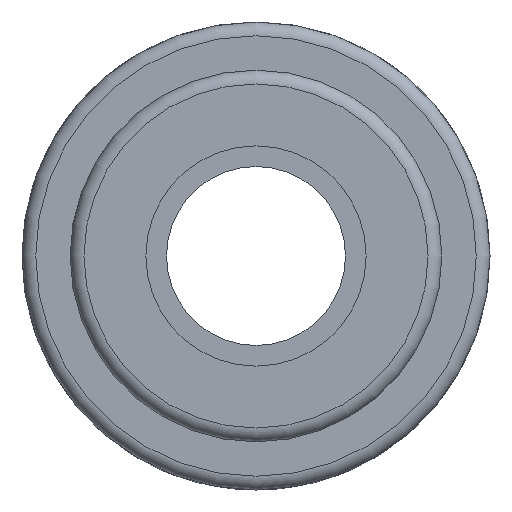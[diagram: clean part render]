
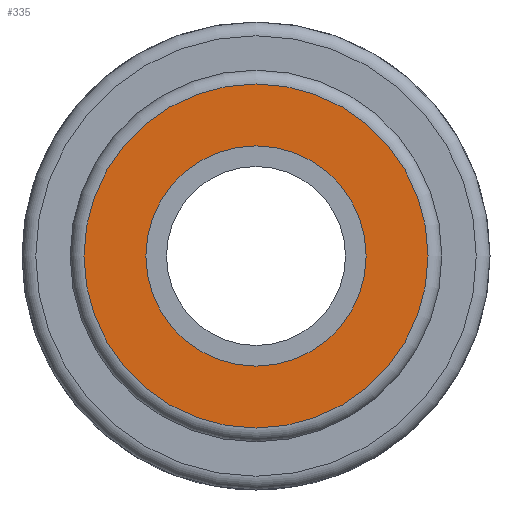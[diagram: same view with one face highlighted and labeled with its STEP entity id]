
A CAD part, left-side view. The second image highlights one B-rep face of the part: STEP entity #335.
In plain terms, the highlighted planar face has unit normal (-1, 0, 0).
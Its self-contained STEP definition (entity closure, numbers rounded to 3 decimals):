
#70=CARTESIAN_POINT('',(-30.5,-4.0,0.0));
#71=VERTEX_POINT('',#70);
#72=CARTESIAN_POINT('',(-30.5,0.0,0.0));
#73=DIRECTION('',(1.0,0.0,0.0));
#74=DIRECTION('',(0.0,-1.0,0.0));
#75=AXIS2_PLACEMENT_3D('',#72,#73,#74);
#76=CIRCLE('',#75,4.0);
#77=EDGE_CURVE('',#71,#71,#76,.T.);
#281=CARTESIAN_POINT('',(-30.5,0.,6.25));
#282=VERTEX_POINT('',#281);
#283=CARTESIAN_POINT('',(-30.5,0.0,0.0));
#284=DIRECTION('',(1.0,0.0,0.0));
#285=DIRECTION('',(0.0,0.0,-1.0));
#286=AXIS2_PLACEMENT_3D('',#283,#284,#285);
#287=CIRCLE('',#286,6.25);
#288=EDGE_CURVE('',#282,#282,#287,.T.);
#324=CARTESIAN_POINT('',(-30.5,0.0,0.0));
#325=DIRECTION('',(1.0,0.0,0.0));
#326=DIRECTION('',(0.0,0.0,-1.0));
#327=AXIS2_PLACEMENT_3D('',#324,#325,#326);
#328=PLANE('',#327);
#329=ORIENTED_EDGE('',*,*,#288,.F.);
#330=EDGE_LOOP('',(#329));
#331=FACE_OUTER_BOUND('',#330,.T.);
#332=ORIENTED_EDGE('',*,*,#77,.T.);
#333=EDGE_LOOP('',(#332));
#334=FACE_BOUND('',#333,.T.);
#335=ADVANCED_FACE('',(#331,#334),#328,.F.);
